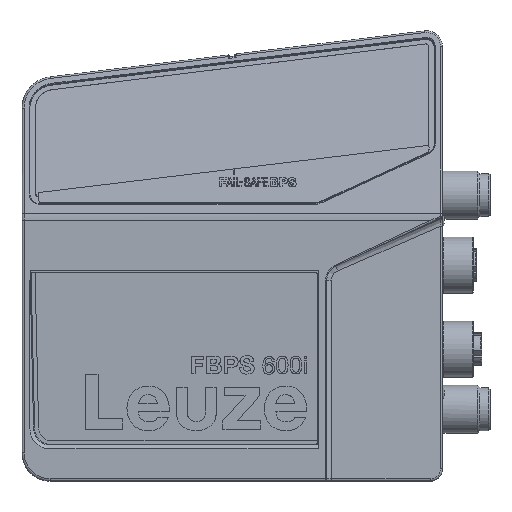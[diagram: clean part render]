
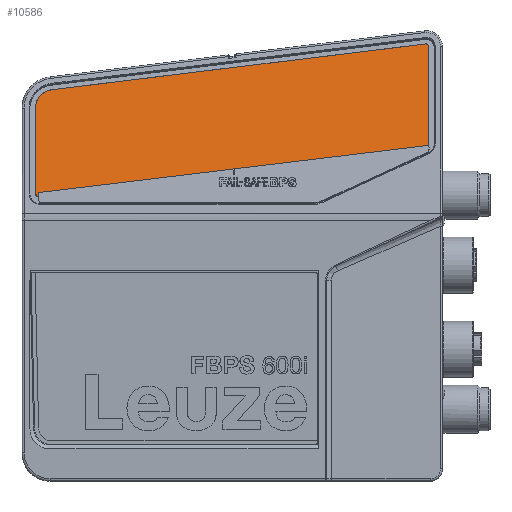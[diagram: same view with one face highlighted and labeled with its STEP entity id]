
A CAD part, top view. The second image highlights one B-rep face of the part: STEP entity #10586.
In plain terms, the highlighted planar face has unit normal (0, 0.174, 0.985).
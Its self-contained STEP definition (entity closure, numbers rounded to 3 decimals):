
#8355=FACE_OUTER_BOUND('',#15221,.T.);
#10586=ADVANCED_FACE('',(#8355),#12867,.F.);
#12867=PLANE('',#49248);
#15221=EDGE_LOOP('',(#21542,#21543,#21544,#21545,#21546,#21547,#21548,#21549,
#21550,#21551,#21552));
#17820=CIRCLE('',#49233,0.5);
#17824=CIRCLE('',#49238,0.5);
#17827=CIRCLE('',#49244,1.);
#17828=CIRCLE('',#49245,0.8);
#17829=CIRCLE('',#49246,4.6);
#17830=CIRCLE('',#49247,1.);
#21542=ORIENTED_EDGE('',*,*,#36500,.F.);
#21543=ORIENTED_EDGE('',*,*,#36491,.T.);
#21544=ORIENTED_EDGE('',*,*,#36506,.T.);
#21545=ORIENTED_EDGE('',*,*,#36507,.F.);
#21546=ORIENTED_EDGE('',*,*,#36508,.T.);
#21547=ORIENTED_EDGE('',*,*,#36509,.F.);
#21548=ORIENTED_EDGE('',*,*,#36510,.T.);
#21549=ORIENTED_EDGE('',*,*,#36511,.F.);
#21550=ORIENTED_EDGE('',*,*,#36512,.T.);
#21551=ORIENTED_EDGE('',*,*,#36485,.T.);
#21552=ORIENTED_EDGE('',*,*,#36497,.T.);
#32018=VERTEX_POINT('',#70755);
#32019=VERTEX_POINT('',#70756);
#32023=VERTEX_POINT('',#70767);
#32024=VERTEX_POINT('',#70768);
#32028=VERTEX_POINT('',#70779);
#32032=VERTEX_POINT('',#70795);
#32033=VERTEX_POINT('',#70797);
#32034=VERTEX_POINT('',#70799);
#32035=VERTEX_POINT('',#70801);
#32036=VERTEX_POINT('',#70803);
#32037=VERTEX_POINT('',#70805);
#36485=EDGE_CURVE('',#32018,#32019,#42022,.T.);
#36491=EDGE_CURVE('',#32023,#32024,#17820,.T.);
#36497=EDGE_CURVE('',#32019,#32028,#17824,.T.);
#36500=EDGE_CURVE('',#32023,#32028,#42031,.T.);
#36506=EDGE_CURVE('',#32024,#32032,#17827,.T.);
#36507=EDGE_CURVE('',#32033,#32032,#42036,.T.);
#36508=EDGE_CURVE('',#32033,#32034,#17828,.T.);
#36509=EDGE_CURVE('',#32035,#32034,#42037,.T.);
#36510=EDGE_CURVE('',#32035,#32036,#17829,.T.);
#36511=EDGE_CURVE('',#32037,#32036,#42038,.T.);
#36512=EDGE_CURVE('',#32037,#32018,#17830,.T.);
#42022=LINE('',#70754,#45715);
#42031=LINE('',#70784,#45724);
#42036=LINE('',#70796,#45729);
#42037=LINE('',#70800,#45730);
#42038=LINE('',#70804,#45731);
#45715=VECTOR('',#54263,1.);
#45724=VECTOR('',#54290,1.);
#45729=VECTOR('',#54303,1.);
#45730=VECTOR('',#54306,1.);
#45731=VECTOR('',#54309,1.);
#49233=AXIS2_PLACEMENT_3D('',#70766,#54271,#54272);
#49238=AXIS2_PLACEMENT_3D('',#70778,#54283,#54284);
#49244=AXIS2_PLACEMENT_3D('',#70794,#54301,#54302);
#49245=AXIS2_PLACEMENT_3D('',#70798,#54304,#54305);
#49246=AXIS2_PLACEMENT_3D('',#70802,#54307,#54308);
#49247=AXIS2_PLACEMENT_3D('',#70806,#54310,#54311);
#49248=AXIS2_PLACEMENT_3D('',#70807,#54312,#54313);
#54263=DIRECTION('',(0.,0.985,-0.174));
#54271=DIRECTION('',(0.,-0.174,-0.985));
#54272=DIRECTION('',(0.,0.985,-0.174));
#54283=DIRECTION('',(0.,-0.174,-0.985));
#54284=DIRECTION('',(0.,0.985,-0.174));
#54290=DIRECTION('',(-0.993,-0.12,0.021));
#54301=DIRECTION('',(0.,0.174,0.985));
#54302=DIRECTION('',(-1.,0.,0.));
#54303=DIRECTION('',(0.,-0.985,0.174));
#54304=DIRECTION('',(0.,0.174,0.985));
#54305=DIRECTION('',(-1.,0.,0.));
#54306=DIRECTION('',(0.992,0.122,-0.021));
#54307=DIRECTION('',(0.,0.174,0.985));
#54308=DIRECTION('',(-1.,0.,0.));
#54309=DIRECTION('',(0.,0.985,-0.174));
#54310=DIRECTION('',(0.,0.174,0.985));
#54311=DIRECTION('',(-1.,0.,0.));
#54312=DIRECTION('',(0.,-0.174,-0.985));
#54313=DIRECTION('',(-1.,0.,0.));
#70754=CARTESIAN_POINT('',(4.074,70.709,42.351));
#70755=CARTESIAN_POINT('',(4.074,70.961,42.307));
#70756=CARTESIAN_POINT('',(4.074,71.521,42.208));
#70766=CARTESIAN_POINT('',(101.174,83.202,40.148));
#70767=CARTESIAN_POINT('',(101.113,83.691,40.062));
#70768=CARTESIAN_POINT('',(101.325,83.671,40.066));
#70778=CARTESIAN_POINT('',(4.574,71.521,42.208));
#70779=CARTESIAN_POINT('',(4.513,72.01,42.122));
#70784=CARTESIAN_POINT('',(3.065,71.835,42.153));
#70794=CARTESIAN_POINT('',(100.605,84.355,39.945));
#70795=CARTESIAN_POINT('',(101.605,84.355,39.945));
#70796=CARTESIAN_POINT('',(101.605,109.279,35.55));
#70797=CARTESIAN_POINT('',(101.605,108.387,35.708));
#70798=CARTESIAN_POINT('',(100.805,108.387,35.708));
#70799=CARTESIAN_POINT('',(100.706,109.169,35.57));
#70800=CARTESIAN_POINT('',(3.405,97.223,37.676));
#70801=CARTESIAN_POINT('',(7.436,97.718,37.589));
#70802=CARTESIAN_POINT('',(8.005,93.223,38.382));
#70803=CARTESIAN_POINT('',(3.405,93.223,38.382));
#70804=CARTESIAN_POINT('',(3.405,70.906,42.317));
#70805=CARTESIAN_POINT('',(3.405,71.89,42.143));
#70806=CARTESIAN_POINT('',(4.405,71.89,42.143));
#70807=CARTESIAN_POINT('',(3.205,70.709,42.351));
